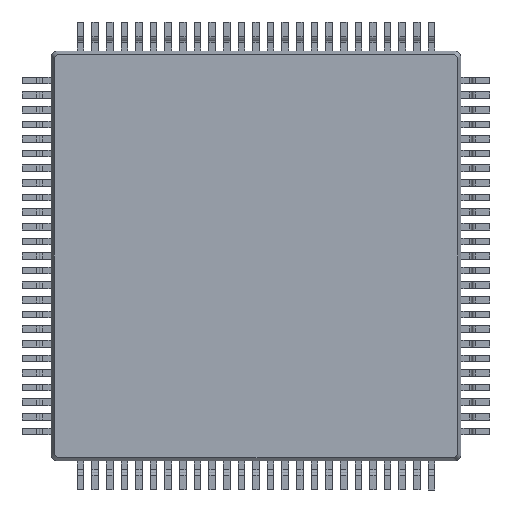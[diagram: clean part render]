
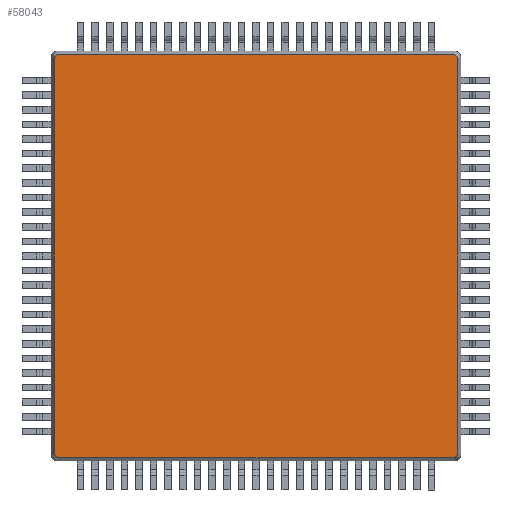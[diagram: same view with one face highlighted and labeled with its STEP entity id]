
A CAD part, front view. The second image highlights one B-rep face of the part: STEP entity #58043.
In plain terms, the highlighted planar face has unit normal (0, -1, 0).
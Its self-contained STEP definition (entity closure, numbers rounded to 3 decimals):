
#1717 = CARTESIAN_POINT ( 'NONE',  ( 6.897, 0., 6.821 ) ) ;
#2343 = CARTESIAN_POINT ( 'NONE',  ( 6.708, 0., 6.897 ) ) ;
#3846 = VERTEX_POINT ( 'NONE', #39291 ) ;
#3880 = VERTEX_POINT ( 'NONE', #49101 ) ;
#5336 = ORIENTED_EDGE ( 'NONE', *, *, #28972, .T. ) ;
#8133 = ORIENTED_EDGE ( 'NONE', *, *, #53038, .T. ) ;
#9055 = CARTESIAN_POINT ( 'NONE',  ( 0., 0., -6.897 ) ) ;
#10147 = CARTESIAN_POINT ( 'NONE',  ( -6.897, 0., 6.708 ) ) ;
#10440 =( BOUNDED_CURVE ( )  B_SPLINE_CURVE ( 3, ( #14178, #55755, #46493, #18185 ),
 .UNSPECIFIED., .F., .F. ) 
 B_SPLINE_CURVE_WITH_KNOTS ( ( 4, 4 ),
 ( 5.551, 7.015 ),
 .UNSPECIFIED. ) 
 CURVE ( )  GEOMETRIC_REPRESENTATION_ITEM ( )  RATIONAL_B_SPLINE_CURVE ( ( 1., 0.829, 0.829, 1. ) ) 
 REPRESENTATION_ITEM ( '' )  );
#10550 =( BOUNDED_CURVE ( )  B_SPLINE_CURVE ( 3, ( #55890, #28034, #56170, #14330 ),
 .UNSPECIFIED., .F., .F. ) 
 B_SPLINE_CURVE_WITH_KNOTS ( ( 4, 4 ),
 ( 2.409, 3.874 ),
 .UNSPECIFIED. ) 
 CURVE ( )  GEOMETRIC_REPRESENTATION_ITEM ( )  RATIONAL_B_SPLINE_CURVE ( ( 1., 0.829, 0.829, 1. ) ) 
 REPRESENTATION_ITEM ( '' )  );
#11184 = CARTESIAN_POINT ( 'NONE',  ( 0., 0., 0. ) ) ;
#13453 = AXIS2_PLACEMENT_3D ( 'NONE', #11184, #48691, #26066 ) ;
#13496 = CARTESIAN_POINT ( 'NONE',  ( -6.821, 0., 6.897 ) ) ;
#14059 = VERTEX_POINT ( 'NONE', #22081 ) ;
#14178 = CARTESIAN_POINT ( 'NONE',  ( -6.897, 0., -6.708 ) ) ;
#14330 = CARTESIAN_POINT ( 'NONE',  ( 6.897, 0., -6.708 ) ) ;
#15425 = DIRECTION ( 'NONE',  ( 1., 0., 0. ) ) ;
#17928 = LINE ( 'NONE', #9055, #40082 ) ;
#18185 = CARTESIAN_POINT ( 'NONE',  ( -6.708, 0., -6.897 ) ) ;
#18631 = CARTESIAN_POINT ( 'NONE',  ( -6.897, 0., 0. ) ) ;
#19481 = VERTEX_POINT ( 'NONE', #39725 ) ;
#20802 = EDGE_CURVE ( 'NONE', #52093, #14059, #40161, .T. ) ;
#21393 = EDGE_LOOP ( 'NONE', ( #33050, #23135, #28361, #8133, #43218, #5336, #43984, #43886 ) ) ;
#22081 = CARTESIAN_POINT ( 'NONE',  ( -6.708, 0., 6.897 ) ) ;
#23135 = ORIENTED_EDGE ( 'NONE', *, *, #59768, .T. ) ;
#23695 = CARTESIAN_POINT ( 'NONE',  ( 6.708, 0., 6.897 ) ) ;
#23702 = CARTESIAN_POINT ( 'NONE',  ( 6.897, 0., 0. ) ) ;
#25461 = CARTESIAN_POINT ( 'NONE',  ( 6.897, 0., 6.708 ) ) ;
#26066 = DIRECTION ( 'NONE',  ( 0., 0., 1. ) ) ;
#26456 = EDGE_CURVE ( 'NONE', #3846, #39383, #17928, .T. ) ;
#27061 = VECTOR ( 'NONE', #56169, 1000. ) ;
#27732 = EDGE_CURVE ( 'NONE', #19481, #57112, #51218, .T. ) ;
#27962 = DIRECTION ( 'NONE',  ( 0., 0., 1. ) ) ;
#28034 = CARTESIAN_POINT ( 'NONE',  ( 6.821, 0., -6.897 ) ) ;
#28361 = ORIENTED_EDGE ( 'NONE', *, *, #27732, .T. ) ;
#28972 = EDGE_CURVE ( 'NONE', #14059, #37690, #33401, .T. ) ;
#29715 = FACE_OUTER_BOUND ( 'NONE', #21393, .T. ) ;
#29876 = VECTOR ( 'NONE', #58853, 1000. ) ;
#31162 = CARTESIAN_POINT ( 'NONE',  ( -6.897, 0., 6.708 ) ) ;
#32732 = EDGE_CURVE ( 'NONE', #3880, #3846, #10440, .T. ) ;
#33050 = ORIENTED_EDGE ( 'NONE', *, *, #26456, .T. ) ;
#33401 =( BOUNDED_CURVE ( )  B_SPLINE_CURVE ( 3, ( #60239, #13496, #56549, #10147 ),
 .UNSPECIFIED., .F., .F. ) 
 B_SPLINE_CURVE_WITH_KNOTS ( ( 4, 4 ),
 ( 5.551, 7.015 ),
 .UNSPECIFIED. ) 
 CURVE ( )  GEOMETRIC_REPRESENTATION_ITEM ( )  RATIONAL_B_SPLINE_CURVE ( ( 1., 0.829, 0.829, 1. ) ) 
 REPRESENTATION_ITEM ( '' )  );
#34996 = EDGE_CURVE ( 'NONE', #37690, #3880, #51000, .T. ) ;
#37690 = VERTEX_POINT ( 'NONE', #31162 ) ;
#39291 = CARTESIAN_POINT ( 'NONE',  ( -6.708, 0., -6.897 ) ) ;
#39383 = VERTEX_POINT ( 'NONE', #57960 ) ;
#39725 = CARTESIAN_POINT ( 'NONE',  ( 6.897, 0., -6.708 ) ) ;
#40082 = VECTOR ( 'NONE', #15425, 1000. ) ;
#40161 = LINE ( 'NONE', #59458, #29876 ) ;
#43218 = ORIENTED_EDGE ( 'NONE', *, *, #20802, .T. ) ;
#43886 = ORIENTED_EDGE ( 'NONE', *, *, #32732, .T. ) ;
#43984 = ORIENTED_EDGE ( 'NONE', *, *, #34996, .T. ) ;
#45877 = CARTESIAN_POINT ( 'NONE',  ( 6.897, 0., 6.708 ) ) ;
#46144 = VECTOR ( 'NONE', #27962, 1000. ) ;
#46493 = CARTESIAN_POINT ( 'NONE',  ( -6.821, 0., -6.897 ) ) ;
#48691 = DIRECTION ( 'NONE',  ( 0., 1., 0. ) ) ;
#49101 = CARTESIAN_POINT ( 'NONE',  ( -6.897, 0., -6.708 ) ) ;
#51000 = LINE ( 'NONE', #18631, #27061 ) ;
#51218 = LINE ( 'NONE', #23702, #46144 ) ;
#52093 = VERTEX_POINT ( 'NONE', #23695 ) ;
#53038 = EDGE_CURVE ( 'NONE', #57112, #52093, #58495, .T. ) ;
#54235 = PLANE ( 'NONE',  #13453 ) ;
#55755 = CARTESIAN_POINT ( 'NONE',  ( -6.897, 0., -6.821 ) ) ;
#55890 = CARTESIAN_POINT ( 'NONE',  ( 6.708, 0., -6.897 ) ) ;
#56169 = DIRECTION ( 'NONE',  ( 0., 0., -1. ) ) ;
#56170 = CARTESIAN_POINT ( 'NONE',  ( 6.897, 0., -6.821 ) ) ;
#56549 = CARTESIAN_POINT ( 'NONE',  ( -6.897, 0., 6.821 ) ) ;
#57112 = VERTEX_POINT ( 'NONE', #45877 ) ;
#57960 = CARTESIAN_POINT ( 'NONE',  ( 6.708, 0., -6.897 ) ) ;
#58043 = ADVANCED_FACE ( 'NONE', ( #29715 ), #54235, .F. ) ;
#58477 = CARTESIAN_POINT ( 'NONE',  ( 6.821, 0., 6.897 ) ) ;
#58495 =( BOUNDED_CURVE ( )  B_SPLINE_CURVE ( 3, ( #25461, #1717, #58477, #2343 ),
 .UNSPECIFIED., .F., .F. ) 
 B_SPLINE_CURVE_WITH_KNOTS ( ( 4, 4 ),
 ( 2.409, 3.874 ),
 .UNSPECIFIED. ) 
 CURVE ( )  GEOMETRIC_REPRESENTATION_ITEM ( )  RATIONAL_B_SPLINE_CURVE ( ( 1., 0.829, 0.829, 1. ) ) 
 REPRESENTATION_ITEM ( '' )  );
#58853 = DIRECTION ( 'NONE',  ( -1., 0., 0. ) ) ;
#59458 = CARTESIAN_POINT ( 'NONE',  ( 0., 0., 6.897 ) ) ;
#59768 = EDGE_CURVE ( 'NONE', #39383, #19481, #10550, .T. ) ;
#60239 = CARTESIAN_POINT ( 'NONE',  ( -6.708, 0., 6.897 ) ) ;
